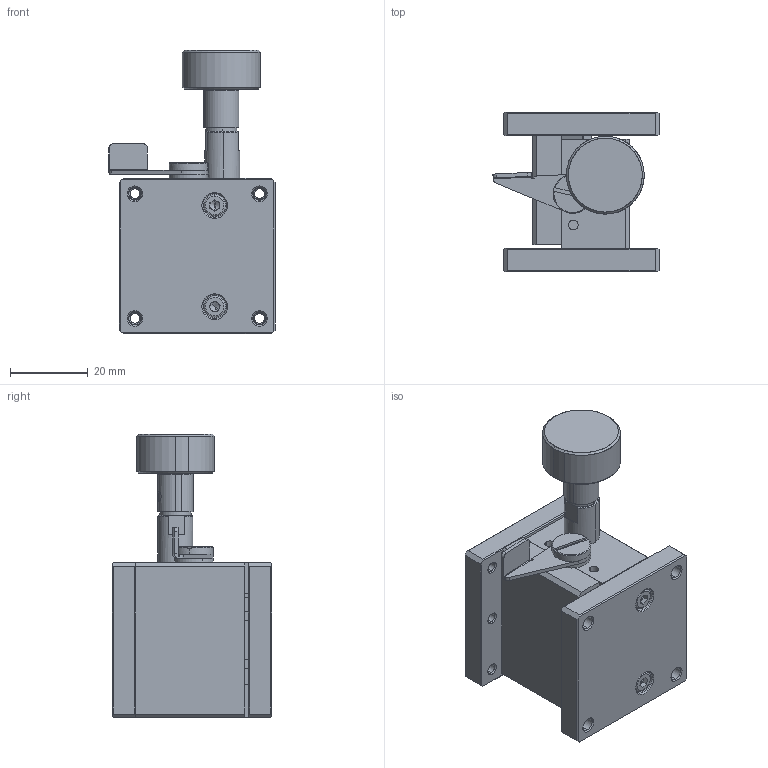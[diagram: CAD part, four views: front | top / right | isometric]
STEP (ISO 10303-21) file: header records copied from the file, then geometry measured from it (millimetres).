
FILE_DESCRIPTION (( 'STEP AP203' ), '1' );
FILE_NAME ('BFGZ40.STEP', '2024-02-26T07:51:57', ( 'China' ), ( 'Microsoft' ), 'SwSTEP 2.0', 'SolidWorks 2024', '' );
FILE_SCHEMA (( 'CONFIG_CONTROL_DESIGN' ));
Products named in the file (1): BFGZ40
Bounding box: 42.66 x 41 x 72.9 mm (x, y, z)
Volume: 53395.5 mm3; surface area: 27846.5 mm2
Topology: 19 solids, 19 shells, 689 faces, 1727 edges, 1080 vertices
Faces by surface type: plane 289, cylinder 211, cone 138, bspline 39, torus 12
Entity records: 110277 total; most frequent: CARTESIAN_POINT 94143, ORIENTED_EDGE 3398, DIRECTION 3263, EDGE_CURVE 1699, AXIS2_PLACEMENT_3D 1160, VERTEX_POINT 1080, LINE 943, VECTOR 943
